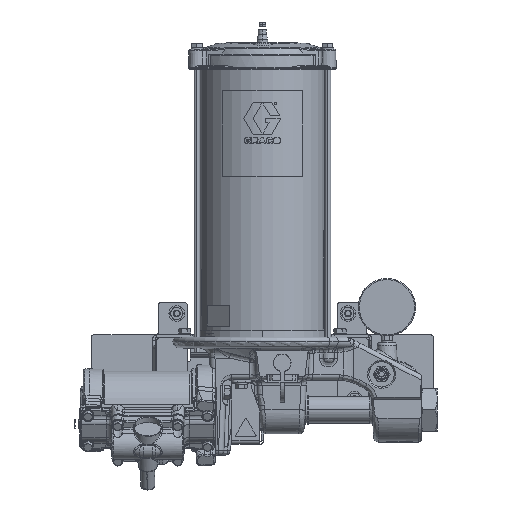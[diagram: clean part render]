
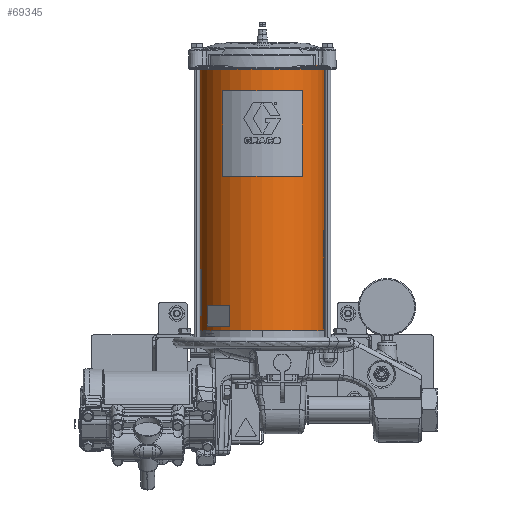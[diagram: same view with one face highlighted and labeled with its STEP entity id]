
A CAD part, top view. The second image highlights one B-rep face of the part: STEP entity #69345.
In plain terms, the highlighted cylindrical face has radius 75.819 mm (diameter 151.638 mm), a partial arc.
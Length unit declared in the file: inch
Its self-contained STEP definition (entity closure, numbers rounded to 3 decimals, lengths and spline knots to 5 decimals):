
#69261=CARTESIAN_POINT('',(2.985,8.0025,0.));
#69262=CARTESIAN_POINT('',(2.985,8.0025,0.00742));
#69263=CARTESIAN_POINT('',(2.98495,7.99937,
0.02076));
#69264=CARTESIAN_POINT('',(2.98477,7.98571,
0.03817));
#69265=CARTESIAN_POINT('',(2.98462,7.96618,
0.04737));
#69266=CARTESIAN_POINT('',(2.98462,7.9447,
0.04741));
#69267=CARTESIAN_POINT('',(2.98477,7.92491,
0.03785));
#69268=CARTESIAN_POINT('',(2.98495,7.91169,
0.02075));
#69269=CARTESIAN_POINT('',(2.985,7.9085,0.00741));
#69270=CARTESIAN_POINT('',(2.985,7.9085,0.));
#69272=CARTESIAN_POINT('',(0.,0.5,0.));
#69273=DIRECTION('',(0.,-1.,0.));
#69274=DIRECTION('',(1.,0.,0.));
#69275=AXIS2_PLACEMENT_3D('',#69272,#69273,#69274);
#69277=DIRECTION('',(0.,1.,0.));
#69278=VECTOR('',#69277,13.0155);
#69279=CARTESIAN_POINT('',(-2.985,0.5,0.));
#69280=LINE('',#69279,#69278);
#69281=CARTESIAN_POINT('',(0.,13.5155,0.));
#69282=DIRECTION('',(0.,1.,0.));
#69283=DIRECTION('',(-1.,0.,0.));
#69284=AXIS2_PLACEMENT_3D('',#69281,#69282,#69283);
#69298=DIRECTION('',(0.,1.,0.));
#69299=VECTOR('',#69298,5.513);
#69300=CARTESIAN_POINT('',(2.985,8.0025,0.));
#69301=LINE('',#69300,#69299);
#69312=DIRECTION('',(0.,1.,0.));
#69313=VECTOR('',#69312,7.4085);
#69314=CARTESIAN_POINT('',(2.985,0.5,0.));
#69315=LINE('',#69314,#69313);
#69316=CARTESIAN_POINT('',(-2.985,0.5,0.));
#69317=CARTESIAN_POINT('',(2.985,0.5,0.));
#69318=VERTEX_POINT('',#69316);
#69319=VERTEX_POINT('',#69317);
#69320=CARTESIAN_POINT('',(-2.985,13.5155,0.));
#69321=CARTESIAN_POINT('',(2.985,13.5155,0.));
#69322=VERTEX_POINT('',#69320);
#69323=VERTEX_POINT('',#69321);
#69324=VERTEX_POINT('',#69270);
#69325=VERTEX_POINT('',#69261);
#69326=CARTESIAN_POINT('',(0.,0.5,0.));
#69327=DIRECTION('',(0.,1.,0.));
#69328=DIRECTION('',(-1.,0.,0.));
#69329=AXIS2_PLACEMENT_3D('',#69326,#69327,#69328);
#69330=CYLINDRICAL_SURFACE('',#69329,2.985);
#69332=ORIENTED_EDGE('',*,*,#69331,.T.);
#69334=ORIENTED_EDGE('',*,*,#69333,.F.);
#69336=ORIENTED_EDGE('',*,*,#69335,.T.);
#69338=ORIENTED_EDGE('',*,*,#69337,.T.);
#69340=ORIENTED_EDGE('',*,*,#69339,.T.);
#69342=ORIENTED_EDGE('',*,*,#69341,.F.);
#69343=EDGE_LOOP('',(#69332,#69334,#69336,#69338,#69340,#69342));
#69344=FACE_OUTER_BOUND('',#69343,.F.);
#69345=ADVANCED_FACE('',(#69344),#69330,.T.);
#69271=B_SPLINE_CURVE_WITH_KNOTS('',3,(#69261,#69262,#69263,#69264,#69265,
#69266,#69267,#69268,#69269,#69270),.UNSPECIFIED.,.F.,.F.,(4,1,1,1,1,1,1,4),(
0.,0.14286,0.28571,0.42857,0.57143,
0.71429,0.85714,1.),.UNSPECIFIED.);
#69276=CIRCLE('',#69275,2.985);
#69285=CIRCLE('',#69284,2.985);
#69331=EDGE_CURVE('',#69325,#69324,#69271,.T.);
#69333=EDGE_CURVE('',#69319,#69324,#69315,.T.);
#69335=EDGE_CURVE('',#69319,#69318,#69276,.T.);
#69337=EDGE_CURVE('',#69318,#69322,#69280,.T.);
#69339=EDGE_CURVE('',#69322,#69323,#69285,.T.);
#69341=EDGE_CURVE('',#69325,#69323,#69301,.T.);
